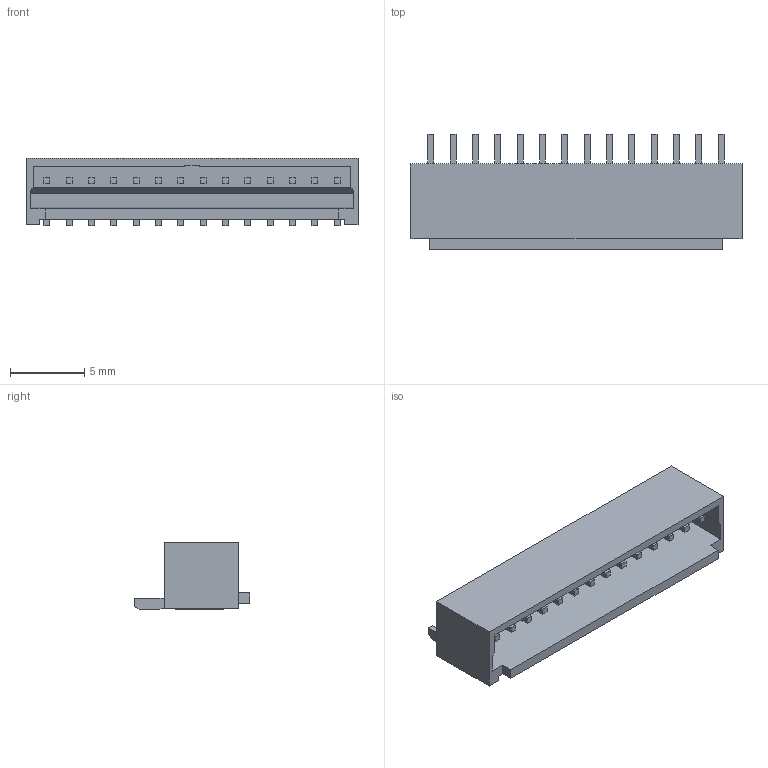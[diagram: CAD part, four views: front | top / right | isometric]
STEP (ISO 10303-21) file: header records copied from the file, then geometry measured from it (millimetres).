
FILE_DESCRIPTION(/* description */ (''),/* implementation_level */ '2;1');
FILE_NAME(/* name */ '874381443wbm000_01_214.stp',/* time_stamp */ '2024-01-10T14:27:59+06:00',/* author */ (''),/* organization */ (''),/* preprocessor_version */ 'ST-DEVELOPER v16.7',/* originating_system */ 'SIEMENS PLM Software NX 1919',/* authorisation */ '');
FILE_SCHEMA (('AUTOMOTIVE_DESIGN { 1 0 10303 214 3 1 1 1 }'));
Length unit declared in the file: millimetre
Products named in the file (1): 874381443wbm000_01
Bounding box: 22.3 x 7.75 x 4.52 mm (x, y, z)
Volume: 282.4 mm3; surface area: 834.7 mm2
Topology: 1 solids, 1 shells, 254 faces, 712 edges, 474 vertices
Faces by surface type: plane 254
Entity records: 8024 total; most frequent: CARTESIAN_POINT 1441, ORIENTED_EDGE 1424, DIRECTION 1222, EDGE_CURVE 712, LINE 712, VECTOR 712, VERTEX_POINT 474, EDGE_LOOP 268
